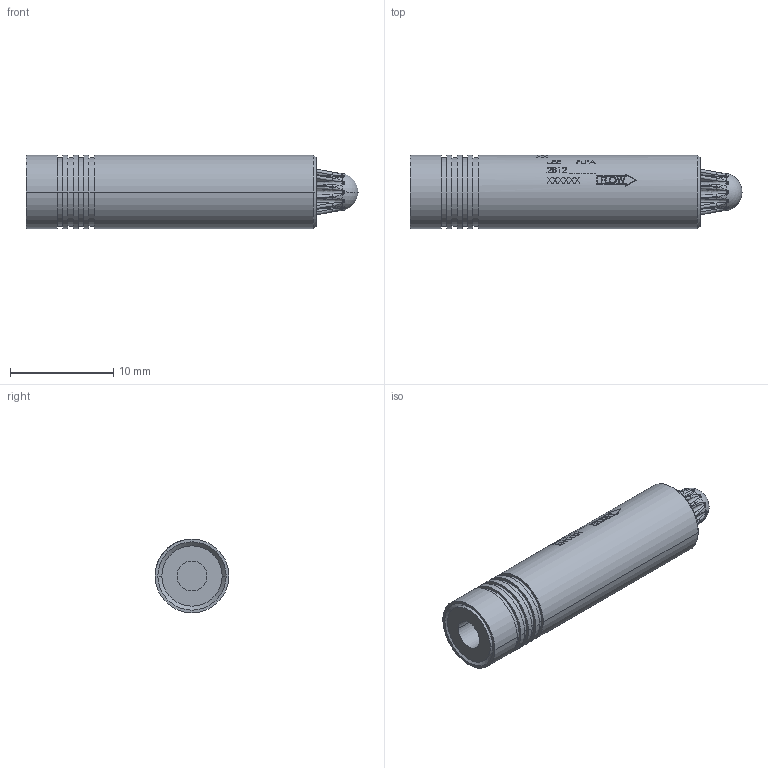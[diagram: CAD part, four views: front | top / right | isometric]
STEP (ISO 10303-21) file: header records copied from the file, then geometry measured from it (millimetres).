
FILE_DESCRIPTION (( 'STEP AP214' ), '1' );
FILE_NAME ('3DFLFA2812----.STEP', '2021-04-01T14:11:21', ( '' ), ( '' ), 'SwSTEP 2.0', 'SolidWorks 2019', '' );
FILE_SCHEMA (( 'AUTOMOTIVE_DESIGN' ));
Length unit declared in the file: inch
Products named in the file (1): 3DFLFA2812----
Bounding box: 32.13 x 7.14 x 7.14 mm (x, y, z)
Volume: 1101.6 mm3; surface area: 872.9 mm2
Topology: 1 solids, 1 shells, 458 faces, 1185 edges, 773 vertices
Faces by surface type: bspline 196, plane 189, cylinder 55, cone 16, sphere 2
Entity records: 23555 total; most frequent: CARTESIAN_POINT 7929, ORIENTED_EDGE 2370, DIRECTION 1386, EDGE_CURVE 1185, VERTEX_POINT 773, B_SPLINE_CURVE_WITH_KNOTS 567, AXIS2_PLACEMENT_3D 505, EDGE_LOOP 502
